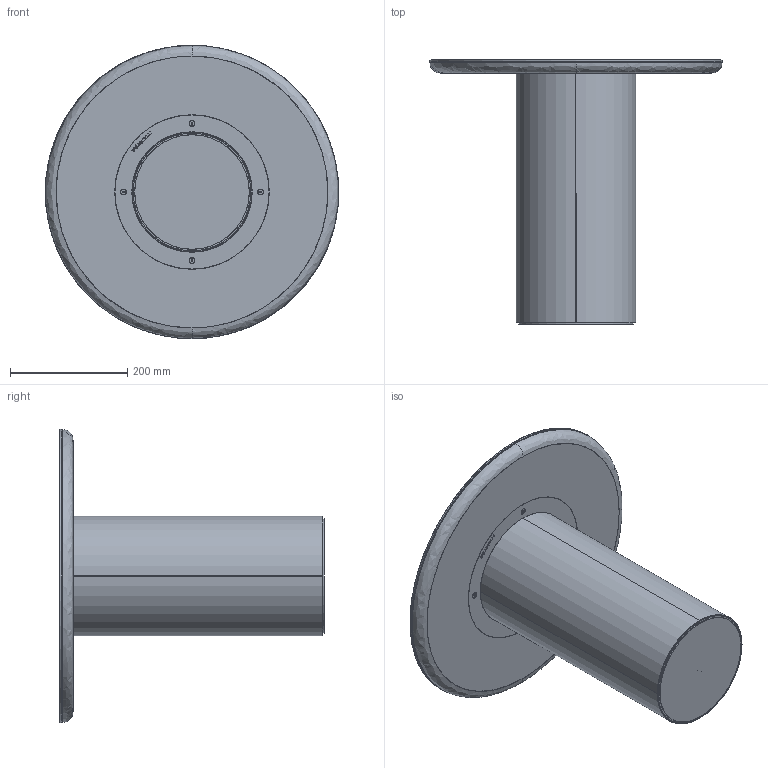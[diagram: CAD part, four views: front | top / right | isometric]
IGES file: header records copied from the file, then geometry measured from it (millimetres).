
Start section: SolidWorks IGES file using analytic representation for surfaces
Global section: file name: \\UTENTI\Dati Utenti\Tecnico\DC\2D - 3D per sito\3D\DeCastelli-3D-Flock 45.igs; native system: SolidWorks 2022; preprocessor: SolidWorks 2022; author: filippo; date: 240724.135708; units: millimetre
Bounding box: 500 x 450 x 500 mm (x, y, z)
Surface area: 1168258.7 mm2 (no closed solid volume)
Topology: 0 solids, 0 shells, 51 faces, 1715 edges, 1715 vertices
Faces by surface type: bspline 30, revolution 21
